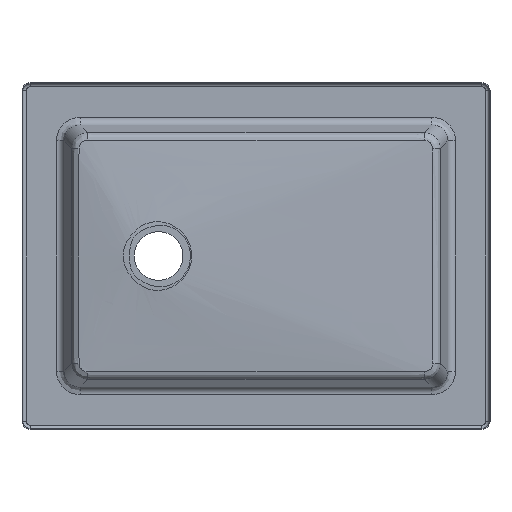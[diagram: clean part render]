
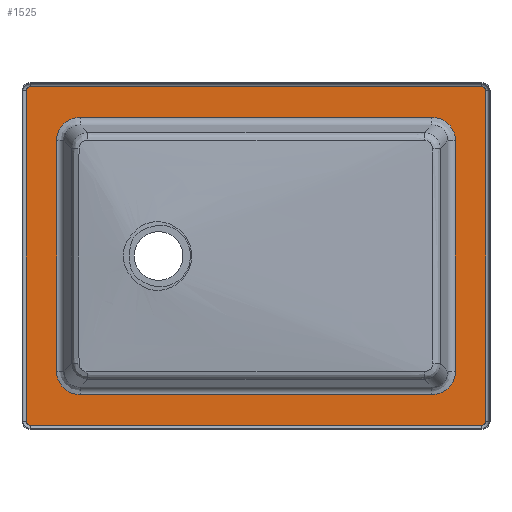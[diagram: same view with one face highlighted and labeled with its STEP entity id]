
A CAD part, front view. The second image highlights one B-rep face of the part: STEP entity #1525.
In plain terms, the highlighted planar face has unit normal (0, -1, 0).
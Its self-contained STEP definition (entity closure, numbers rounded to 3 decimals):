
#26=FACE_BOUND('',#324,.T.);
#39=PLANE('',#1670);
#55=ELLIPSE('',#1671,32.082,30.);
#56=ELLIPSE('',#1672,32.082,30.);
#57=ELLIPSE('',#1673,32.082,30.);
#58=ELLIPSE('',#1674,32.082,30.);
#230=FACE_OUTER_BOUND('',#323,.T.);
#323=EDGE_LOOP('',(#1267,#1268,#1269,#1270,#1271,#1272,#1273,#1274));
#324=EDGE_LOOP('',(#1275,#1276,#1277,#1278,#1279,#1280,#1281,#1282));
#392=LINE('',#5843,#466);
#394=LINE('',#5855,#468);
#396=LINE('',#5867,#470);
#398=LINE('',#5876,#472);
#407=LINE('',#5901,#481);
#408=LINE('',#5905,#482);
#409=LINE('',#5909,#483);
#410=LINE('',#5912,#484);
#466=VECTOR('',#1885,10.);
#468=VECTOR('',#1899,10.);
#470=VECTOR('',#1913,10.);
#472=VECTOR('',#1925,10.);
#481=VECTOR('',#1950,10.);
#482=VECTOR('',#1953,10.);
#483=VECTOR('',#1956,10.);
#484=VECTOR('',#1959,10.);
#538=CIRCLE('',#1644,5.);
#541=CIRCLE('',#1649,5.);
#545=CIRCLE('',#1655,5.);
#549=CIRCLE('',#1661,5.);
#674=VERTEX_POINT('',#5831);
#677=VERTEX_POINT('',#5836);
#679=VERTEX_POINT('',#5841);
#681=VERTEX_POINT('',#5847);
#683=VERTEX_POINT('',#5853);
#685=VERTEX_POINT('',#5859);
#687=VERTEX_POINT('',#5865);
#689=VERTEX_POINT('',#5871);
#695=VERTEX_POINT('',#5897);
#696=VERTEX_POINT('',#5898);
#697=VERTEX_POINT('',#5900);
#698=VERTEX_POINT('',#5902);
#699=VERTEX_POINT('',#5904);
#700=VERTEX_POINT('',#5906);
#701=VERTEX_POINT('',#5908);
#702=VERTEX_POINT('',#5910);
#870=EDGE_CURVE('',#677,#674,#538,.T.);
#872=EDGE_CURVE('',#679,#677,#392,.T.);
#875=EDGE_CURVE('',#681,#679,#541,.T.);
#878=EDGE_CURVE('',#683,#681,#394,.T.);
#881=EDGE_CURVE('',#685,#683,#545,.T.);
#884=EDGE_CURVE('',#687,#685,#396,.T.);
#887=EDGE_CURVE('',#689,#687,#549,.T.);
#889=EDGE_CURVE('',#674,#689,#398,.T.);
#900=EDGE_CURVE('',#695,#696,#55,.T.);
#901=EDGE_CURVE('',#697,#695,#407,.T.);
#902=EDGE_CURVE('',#698,#697,#56,.T.);
#903=EDGE_CURVE('',#699,#698,#408,.T.);
#904=EDGE_CURVE('',#700,#699,#57,.T.);
#905=EDGE_CURVE('',#701,#700,#409,.T.);
#906=EDGE_CURVE('',#702,#701,#58,.T.);
#907=EDGE_CURVE('',#696,#702,#410,.T.);
#1267=ORIENTED_EDGE('',*,*,#870,.F.);
#1268=ORIENTED_EDGE('',*,*,#872,.F.);
#1269=ORIENTED_EDGE('',*,*,#875,.F.);
#1270=ORIENTED_EDGE('',*,*,#878,.F.);
#1271=ORIENTED_EDGE('',*,*,#881,.F.);
#1272=ORIENTED_EDGE('',*,*,#884,.F.);
#1273=ORIENTED_EDGE('',*,*,#887,.F.);
#1274=ORIENTED_EDGE('',*,*,#889,.F.);
#1275=ORIENTED_EDGE('',*,*,#900,.F.);
#1276=ORIENTED_EDGE('',*,*,#901,.F.);
#1277=ORIENTED_EDGE('',*,*,#902,.F.);
#1278=ORIENTED_EDGE('',*,*,#903,.F.);
#1279=ORIENTED_EDGE('',*,*,#904,.F.);
#1280=ORIENTED_EDGE('',*,*,#905,.F.);
#1281=ORIENTED_EDGE('',*,*,#906,.F.);
#1282=ORIENTED_EDGE('',*,*,#907,.F.);
#1525=ADVANCED_FACE('',(#230,#26),#39,.T.);
#1644=AXIS2_PLACEMENT_3D('',#5838,#1879,#1880);
#1649=AXIS2_PLACEMENT_3D('',#5849,#1891,#1892);
#1655=AXIS2_PLACEMENT_3D('',#5861,#1905,#1906);
#1661=AXIS2_PLACEMENT_3D('',#5873,#1919,#1920);
#1670=AXIS2_PLACEMENT_3D('',#5896,#1946,#1947);
#1671=AXIS2_PLACEMENT_3D('',#5899,#1948,#1949);
#1672=AXIS2_PLACEMENT_3D('',#5903,#1951,#1952);
#1673=AXIS2_PLACEMENT_3D('',#5907,#1954,#1955);
#1674=AXIS2_PLACEMENT_3D('',#5911,#1957,#1958);
#1879=DIRECTION('center_axis',(0.,1.,0.));
#1880=DIRECTION('ref_axis',(0.707,0.,-0.707));
#1885=DIRECTION('',(0.,0.,-1.));
#1891=DIRECTION('center_axis',(0.,1.,0.));
#1892=DIRECTION('ref_axis',(0.707,0.,0.707));
#1899=DIRECTION('',(1.,0.,0.));
#1905=DIRECTION('center_axis',(0.,1.,0.));
#1906=DIRECTION('ref_axis',(-0.707,0.,0.707));
#1913=DIRECTION('',(0.,0.,1.));
#1919=DIRECTION('center_axis',(0.,1.,0.));
#1920=DIRECTION('ref_axis',(-0.707,0.,-0.707));
#1925=DIRECTION('',(-1.,0.,0.));
#1946=DIRECTION('center_axis',(0.,-1.,0.));
#1947=DIRECTION('ref_axis',(0.,0.,-1.));
#1948=DIRECTION('center_axis',(0.,-1.,0.));
#1949=DIRECTION('ref_axis',(0.707,0.,-0.707));
#1950=DIRECTION('',(1.,0.,0.));
#1951=DIRECTION('center_axis',(0.,-1.,0.));
#1952=DIRECTION('ref_axis',(-0.707,0.,-0.707));
#1953=DIRECTION('',(0.,0.,-1.));
#1954=DIRECTION('center_axis',(0.,-1.,0.));
#1955=DIRECTION('ref_axis',(-0.707,0.,0.707));
#1956=DIRECTION('',(-1.,0.,0.));
#1957=DIRECTION('center_axis',(0.,-1.,0.));
#1958=DIRECTION('ref_axis',(0.707,0.,0.707));
#1959=DIRECTION('',(0.,0.,1.));
#5831=CARTESIAN_POINT('',(278.397,49.,-208.397));
#5836=CARTESIAN_POINT('',(283.397,49.,-203.397));
#5838=CARTESIAN_POINT('Origin',(278.397,49.,-203.397));
#5841=CARTESIAN_POINT('',(283.397,49.,203.397));
#5843=CARTESIAN_POINT('',(283.397,49.,101.699));
#5847=CARTESIAN_POINT('',(278.397,49.,208.397));
#5849=CARTESIAN_POINT('Origin',(278.397,49.,203.397));
#5853=CARTESIAN_POINT('',(-278.397,49.,208.397));
#5855=CARTESIAN_POINT('',(-139.199,49.,208.397));
#5859=CARTESIAN_POINT('',(-283.397,49.,203.397));
#5861=CARTESIAN_POINT('Origin',(-278.397,49.,203.397));
#5865=CARTESIAN_POINT('',(-283.397,49.,-203.397));
#5867=CARTESIAN_POINT('',(-283.397,49.,-101.699));
#5871=CARTESIAN_POINT('',(-278.397,49.,-208.397));
#5873=CARTESIAN_POINT('Origin',(-278.397,49.,-203.397));
#5876=CARTESIAN_POINT('',(139.199,49.,-208.397));
#5896=CARTESIAN_POINT('Origin',(0.,49.,0.));
#5897=CARTESIAN_POINT('',(216.825,49.,-170.803));
#5898=CARTESIAN_POINT('',(245.803,49.,-141.825));
#5899=CARTESIAN_POINT('Origin',(214.744,49.,-139.744));
#5900=CARTESIAN_POINT('',(-216.825,49.,-170.803));
#5901=CARTESIAN_POINT('',(-112.5,49.,-170.803));
#5902=CARTESIAN_POINT('',(-245.803,49.,-141.825));
#5903=CARTESIAN_POINT('Origin',(-214.744,49.,-139.744));
#5904=CARTESIAN_POINT('',(-245.803,49.,141.825));
#5905=CARTESIAN_POINT('',(-245.803,49.,75.));
#5906=CARTESIAN_POINT('',(-216.825,49.,170.803));
#5907=CARTESIAN_POINT('Origin',(-214.744,49.,139.744));
#5908=CARTESIAN_POINT('',(216.825,49.,170.803));
#5909=CARTESIAN_POINT('',(112.5,49.,170.803));
#5910=CARTESIAN_POINT('',(245.803,49.,141.825));
#5911=CARTESIAN_POINT('Origin',(214.744,49.,139.744));
#5912=CARTESIAN_POINT('',(245.803,49.,-75.));
